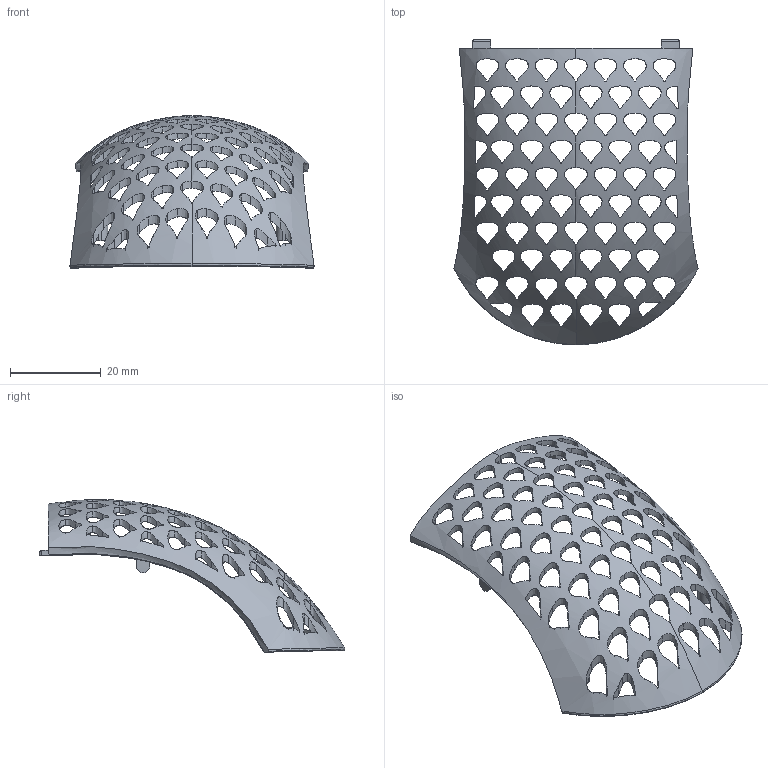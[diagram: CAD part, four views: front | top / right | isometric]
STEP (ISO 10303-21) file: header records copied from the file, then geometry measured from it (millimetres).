
FILE_DESCRIPTION((''),'2;1');
FILE_NAME('_MODEL1_45','2024-05-16T11:55:52',('P15'),(''),'CREO PARAMETRIC BY PTC INC, 2020033','CREO PARAMETRIC BY PTC INC, 2020033','');
FILE_SCHEMA(('CONFIG_CONTROL_DESIGN'));
Products named in the file (1): _MODEL1_45
Bounding box: 53.77 x 67.34 x 33.64 mm (x, y, z)
Volume: 3419.4 mm3; surface area: 7715.8 mm2
Topology: 1 solids, 1 shells, 690 faces, 2075 edges, 1379 vertices
Faces by surface type: extrusion 613, plane 43, bspline 18, cylinder 16
Entity records: 43059 total; most frequent: CARTESIAN_POINT 26838, ORIENTED_EDGE 4150, EDGE_CURVE 2075, B_SPLINE_CURVE_WITH_KNOTS 1967, DIRECTION 1470, VERTEX_POINT 1379, VECTOR 1316, EDGE_LOOP 824
